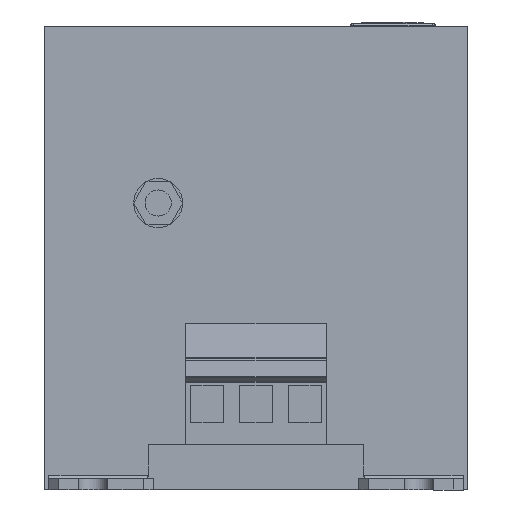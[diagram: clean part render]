
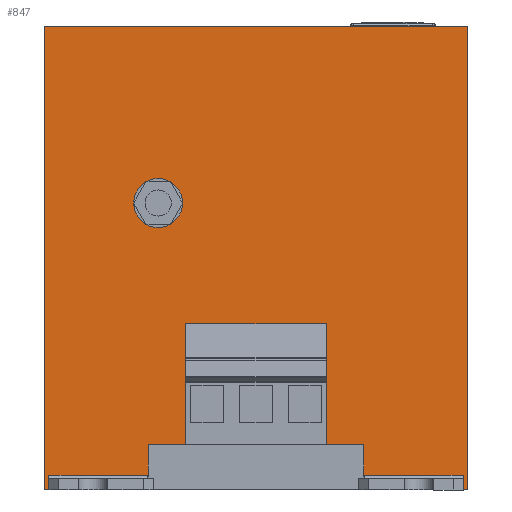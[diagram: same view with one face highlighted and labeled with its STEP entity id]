
A CAD part, front view. The second image highlights one B-rep face of the part: STEP entity #847.
In plain terms, the highlighted planar face has unit normal (0, -1, 0).
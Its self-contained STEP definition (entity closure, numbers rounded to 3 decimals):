
#40 = CARTESIAN_POINT ( 'NONE',  ( 65., -198.5, 35.31 ) ) ;
#82 = DIRECTION ( 'NONE',  ( 0., -1., 0. ) ) ;
#126 = PLANE ( 'NONE',  #7004 ) ;
#128 = DIRECTION ( 'NONE',  ( -1., 0., 0. ) ) ;
#207 = FACE_BOUND ( 'NONE', #1490, .T. ) ;
#218 = VERTEX_POINT ( 'NONE', #2647 ) ;
#253 = VECTOR ( 'NONE', #3722, 1000. ) ;
#264 = VECTOR ( 'NONE', #6495, 1000. ) ;
#302 = EDGE_CURVE ( 'NONE', #701, #1294, #1542, .T. ) ;
#351 = VERTEX_POINT ( 'NONE', #6387 ) ;
#397 = EDGE_CURVE ( 'NONE', #7443, #5798, #6994, .T. ) ;
#426 = ORIENTED_EDGE ( 'NONE', *, *, #7149, .F. ) ;
#500 = AXIS2_PLACEMENT_3D ( 'NONE', #4739, #4263, #6579 ) ;
#520 = VECTOR ( 'NONE', #2557, 1000. ) ;
#546 = CARTESIAN_POINT ( 'NONE',  ( 65., -198.5, 14.01 ) ) ;
#593 = ORIENTED_EDGE ( 'NONE', *, *, #4548, .F. ) ;
#665 = VERTEX_POINT ( 'NONE', #1975 ) ;
#676 = LINE ( 'NONE', #3695, #4046 ) ;
#701 = VERTEX_POINT ( 'NONE', #5494 ) ;
#714 = VERTEX_POINT ( 'NONE', #6175 ) ;
#739 = LINE ( 'NONE', #3641, #6201 ) ;
#747 = EDGE_CURVE ( 'NONE', #1168, #4921, #5746, .T. ) ;
#782 = CARTESIAN_POINT ( 'NONE',  ( 33., -198.5, 358.41 ) ) ;
#830 = DIRECTION ( 'NONE',  ( 0., 0., -1. ) ) ;
#837 = CIRCLE ( 'NONE', #6540, 7.5 ) ;
#847 = ADVANCED_FACE ( 'NONE', ( #207, #6012 ), #126, .T. ) ;
#890 = ORIENTED_EDGE ( 'NONE', *, *, #4291, .F. ) ;
#926 = ORIENTED_EDGE ( 'NONE', *, *, #397, .T. ) ;
#945 = CARTESIAN_POINT ( 'NONE',  ( 65., -198.5, 14.01 ) ) ;
#948 = VERTEX_POINT ( 'NONE', #3232 ) ;
#1168 = VERTEX_POINT ( 'NONE', #4608 ) ;
#1185 = CARTESIAN_POINT ( 'NONE',  ( -33., -198.5, 4.51 ) ) ;
#1200 = CARTESIAN_POINT ( 'NONE',  ( 65., -198.5, 0. ) ) ;
#1265 = LINE ( 'NONE', #1302, #520 ) ;
#1294 = VERTEX_POINT ( 'NONE', #1347 ) ;
#1302 = CARTESIAN_POINT ( 'NONE',  ( 21.5, -198.5, 358.41 ) ) ;
#1347 = CARTESIAN_POINT ( 'NONE',  ( -33., -198.5, 14.01 ) ) ;
#1359 = VECTOR ( 'NONE', #6243, 1000. ) ;
#1475 = CARTESIAN_POINT ( 'NONE',  ( -63.5, -198.5, 358.41 ) ) ;
#1490 = EDGE_LOOP ( 'NONE', ( #593, #4227 ) ) ;
#1508 = CARTESIAN_POINT ( 'NONE',  ( -65., -198.5, 142.01 ) ) ;
#1542 = LINE ( 'NONE', #546, #1359 ) ;
#1668 = LINE ( 'NONE', #7503, #3086 ) ;
#1713 = VERTEX_POINT ( 'NONE', #1185 ) ;
#1786 = DIRECTION ( 'NONE',  ( 1., 0., 0. ) ) ;
#1836 = CARTESIAN_POINT ( 'NONE',  ( -65., -198.5, 358.41 ) ) ;
#1920 = DIRECTION ( 'NONE',  ( 0., 0., -1. ) ) ;
#1954 = ORIENTED_EDGE ( 'NONE', *, *, #3325, .F. ) ;
#1975 = CARTESIAN_POINT ( 'NONE',  ( 33., -198.5, 14.01 ) ) ;
#1981 = DIRECTION ( 'NONE',  ( 0., -1., 0. ) ) ;
#2037 = EDGE_CURVE ( 'NONE', #4921, #714, #4691, .T. ) ;
#2294 = EDGE_CURVE ( 'NONE', #6940, #4098, #837, .T. ) ;
#2306 = EDGE_CURVE ( 'NONE', #665, #4043, #5070, .T. ) ;
#2338 = EDGE_CURVE ( 'NONE', #4696, #701, #5034, .T. ) ;
#2453 = CARTESIAN_POINT ( 'NONE',  ( 65., -198.5, 358.41 ) ) ;
#2455 = LINE ( 'NONE', #782, #4854 ) ;
#2543 = CARTESIAN_POINT ( 'NONE',  ( -30., -198.5, 88.01 ) ) ;
#2545 = VECTOR ( 'NONE', #3388, 1000. ) ;
#2557 = DIRECTION ( 'NONE',  ( 0., 0., -1. ) ) ;
#2606 = ORIENTED_EDGE ( 'NONE', *, *, #4464, .F. ) ;
#2631 = CARTESIAN_POINT ( 'NONE',  ( -30., -198.5, 80.51 ) ) ;
#2647 = CARTESIAN_POINT ( 'NONE',  ( 33., -198.5, 4.51 ) ) ;
#2730 = VECTOR ( 'NONE', #3251, 1000. ) ;
#2956 = ORIENTED_EDGE ( 'NONE', *, *, #4252, .F. ) ;
#2981 = EDGE_LOOP ( 'NONE', ( #2606, #6924, #426, #6147, #6382, #6931, #5449, #6952, #2956, #890, #6610, #4399, #4277, #5731, #926, #1954 ) ) ;
#3086 = VECTOR ( 'NONE', #1786, 1000. ) ;
#3119 = DIRECTION ( 'NONE',  ( 0., 0., -1. ) ) ;
#3232 = CARTESIAN_POINT ( 'NONE',  ( -63.5, -198.5, 0. ) ) ;
#3251 = DIRECTION ( 'NONE',  ( -1., 0., 0. ) ) ;
#3325 = EDGE_CURVE ( 'NONE', #948, #5798, #5782, .T. ) ;
#3388 = DIRECTION ( 'NONE',  ( 0., 0., -1. ) ) ;
#3425 = DIRECTION ( 'NONE',  ( -1., 0., 0. ) ) ;
#3525 = VECTOR ( 'NONE', #4963, 1000. ) ;
#3580 = CARTESIAN_POINT ( 'NONE',  ( 63.5, -198.5, 358.41 ) ) ;
#3641 = CARTESIAN_POINT ( 'NONE',  ( 63.3, -198.5, 4.51 ) ) ;
#3695 = CARTESIAN_POINT ( 'NONE',  ( 65., -198.5, 358.41 ) ) ;
#3722 = DIRECTION ( 'NONE',  ( 0., 0., -1. ) ) ;
#3730 = DIRECTION ( 'NONE',  ( 0., 0., -1. ) ) ;
#3780 = VECTOR ( 'NONE', #128, 1000. ) ;
#3788 = CIRCLE ( 'NONE', #500, 7.5 ) ;
#3878 = CARTESIAN_POINT ( 'NONE',  ( 65., -198.5, 142.01 ) ) ;
#4026 = DIRECTION ( 'NONE',  ( 0., 0., 1. ) ) ;
#4043 = VERTEX_POINT ( 'NONE', #7143 ) ;
#4046 = VECTOR ( 'NONE', #830, 1000. ) ;
#4074 = LINE ( 'NONE', #40, #4405 ) ;
#4098 = VERTEX_POINT ( 'NONE', #4969 ) ;
#4227 = ORIENTED_EDGE ( 'NONE', *, *, #2294, .F. ) ;
#4235 = CARTESIAN_POINT ( 'NONE',  ( 65., -198.5, 0. ) ) ;
#4252 = EDGE_CURVE ( 'NONE', #218, #665, #2455, .T. ) ;
#4263 = DIRECTION ( 'NONE',  ( 0., -1., 0. ) ) ;
#4277 = ORIENTED_EDGE ( 'NONE', *, *, #5856, .F. ) ;
#4291 = EDGE_CURVE ( 'NONE', #714, #218, #739, .T. ) ;
#4342 = VERTEX_POINT ( 'NONE', #5723 ) ;
#4399 = ORIENTED_EDGE ( 'NONE', *, *, #747, .F. ) ;
#4405 = VECTOR ( 'NONE', #7485, 1000. ) ;
#4414 = CARTESIAN_POINT ( 'NONE',  ( -21.5, -198.5, 35.31 ) ) ;
#4429 = VECTOR ( 'NONE', #3119, 1000. ) ;
#4464 = EDGE_CURVE ( 'NONE', #351, #948, #6595, .T. ) ;
#4515 = CARTESIAN_POINT ( 'NONE',  ( 63.3, -198.5, 4.51 ) ) ;
#4548 = EDGE_CURVE ( 'NONE', #4098, #6940, #3788, .T. ) ;
#4608 = CARTESIAN_POINT ( 'NONE',  ( 65., -198.5, 0. ) ) ;
#4691 = LINE ( 'NONE', #3580, #5304 ) ;
#4696 = VERTEX_POINT ( 'NONE', #4414 ) ;
#4739 = CARTESIAN_POINT ( 'NONE',  ( -30., -198.5, 88.01 ) ) ;
#4854 = VECTOR ( 'NONE', #4026, 1000. ) ;
#4921 = VERTEX_POINT ( 'NONE', #5120 ) ;
#4963 = DIRECTION ( 'NONE',  ( -1., 0., 0. ) ) ;
#4969 = CARTESIAN_POINT ( 'NONE',  ( -30., -198.5, 95.51 ) ) ;
#5034 = LINE ( 'NONE', #5568, #2545 ) ;
#5070 = LINE ( 'NONE', #945, #3525 ) ;
#5120 = CARTESIAN_POINT ( 'NONE',  ( 63.5, -198.5, 0. ) ) ;
#5304 = VECTOR ( 'NONE', #6486, 1000. ) ;
#5444 = EDGE_CURVE ( 'NONE', #4342, #4696, #4074, .T. ) ;
#5449 = ORIENTED_EDGE ( 'NONE', *, *, #5581, .T. ) ;
#5494 = CARTESIAN_POINT ( 'NONE',  ( -21.5, -198.5, 14.01 ) ) ;
#5568 = CARTESIAN_POINT ( 'NONE',  ( -21.5, -198.5, 358.41 ) ) ;
#5581 = EDGE_CURVE ( 'NONE', #4342, #4043, #1265, .T. ) ;
#5668 = VECTOR ( 'NONE', #3425, 1000. ) ;
#5723 = CARTESIAN_POINT ( 'NONE',  ( 21.5, -198.5, 35.31 ) ) ;
#5731 = ORIENTED_EDGE ( 'NONE', *, *, #6096, .F. ) ;
#5746 = LINE ( 'NONE', #1200, #5668 ) ;
#5782 = LINE ( 'NONE', #4235, #3780 ) ;
#5798 = VERTEX_POINT ( 'NONE', #6379 ) ;
#5856 = EDGE_CURVE ( 'NONE', #6071, #1168, #676, .T. ) ;
#5864 = LINE ( 'NONE', #7176, #4429 ) ;
#5974 = DIRECTION ( 'NONE',  ( -1., 0., 0. ) ) ;
#6012 = FACE_OUTER_BOUND ( 'NONE', #2981, .T. ) ;
#6071 = VERTEX_POINT ( 'NONE', #3878 ) ;
#6096 = EDGE_CURVE ( 'NONE', #7443, #6071, #1668, .T. ) ;
#6118 = LINE ( 'NONE', #4515, #2730 ) ;
#6147 = ORIENTED_EDGE ( 'NONE', *, *, #302, .F. ) ;
#6175 = CARTESIAN_POINT ( 'NONE',  ( 63.5, -198.5, 4.51 ) ) ;
#6201 = VECTOR ( 'NONE', #5974, 1000. ) ;
#6243 = DIRECTION ( 'NONE',  ( -1., 0., 0. ) ) ;
#6379 = CARTESIAN_POINT ( 'NONE',  ( -65., -198.5, 0. ) ) ;
#6382 = ORIENTED_EDGE ( 'NONE', *, *, #2338, .F. ) ;
#6387 = CARTESIAN_POINT ( 'NONE',  ( -63.5, -198.5, 4.51 ) ) ;
#6486 = DIRECTION ( 'NONE',  ( 0., 0., 1. ) ) ;
#6495 = DIRECTION ( 'NONE',  ( 0., 0., -1. ) ) ;
#6540 = AXIS2_PLACEMENT_3D ( 'NONE', #2543, #1981, #3730 ) ;
#6579 = DIRECTION ( 'NONE',  ( 0., 0., -1. ) ) ;
#6595 = LINE ( 'NONE', #1475, #253 ) ;
#6610 = ORIENTED_EDGE ( 'NONE', *, *, #2037, .F. ) ;
#6882 = EDGE_CURVE ( 'NONE', #1713, #351, #6118, .T. ) ;
#6924 = ORIENTED_EDGE ( 'NONE', *, *, #6882, .F. ) ;
#6931 = ORIENTED_EDGE ( 'NONE', *, *, #5444, .F. ) ;
#6940 = VERTEX_POINT ( 'NONE', #2631 ) ;
#6952 = ORIENTED_EDGE ( 'NONE', *, *, #2306, .F. ) ;
#6994 = LINE ( 'NONE', #1836, #264 ) ;
#7004 = AXIS2_PLACEMENT_3D ( 'NONE', #2453, #82, #1920 ) ;
#7143 = CARTESIAN_POINT ( 'NONE',  ( 21.5, -198.5, 14.01 ) ) ;
#7149 = EDGE_CURVE ( 'NONE', #1294, #1713, #5864, .T. ) ;
#7176 = CARTESIAN_POINT ( 'NONE',  ( -33., -198.5, 358.41 ) ) ;
#7443 = VERTEX_POINT ( 'NONE', #1508 ) ;
#7485 = DIRECTION ( 'NONE',  ( -1., 0., 0. ) ) ;
#7503 = CARTESIAN_POINT ( 'NONE',  ( 65., -198.5, 142.01 ) ) ;
